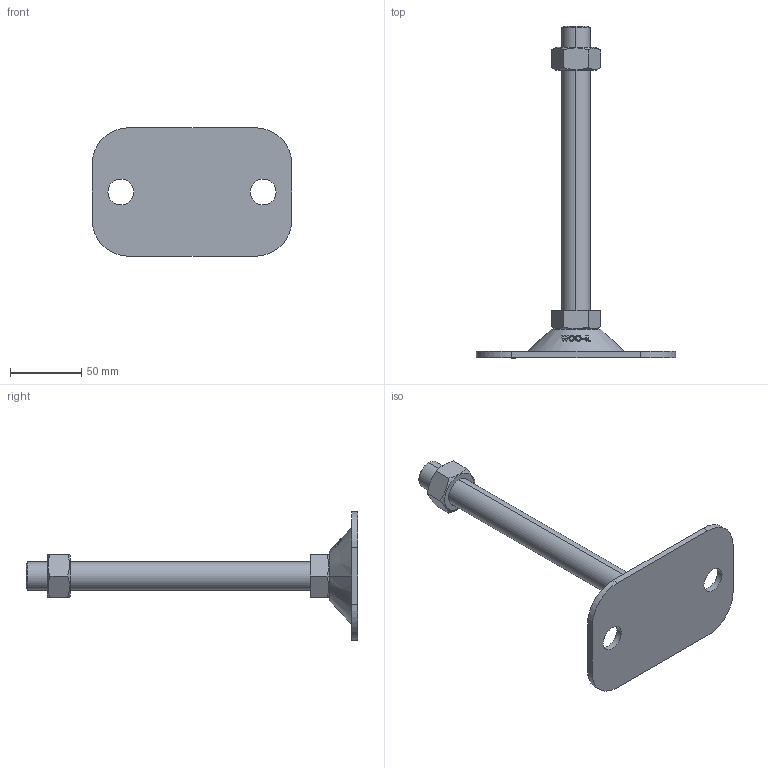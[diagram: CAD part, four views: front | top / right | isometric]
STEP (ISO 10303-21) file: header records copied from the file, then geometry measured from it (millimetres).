
FILE_DESCRIPTION (( 'STEP AP214' ), '1' );
FILE_NAME ('FABL90140-M20-200.step', '2021-03-28T23:53:37', ( '' ), ( '' ), 'SwSTEP 2.0', 'SolidWorks 2019', '' );
FILE_SCHEMA (( 'AUTOMOTIVE_DESIGN' ));
Length unit declared in the file: millimetre
Products named in the file (2): FABL90140-M20-200
Bounding box: 140 x 233 x 90 mm (x, y, z)
Volume: 165507.1 mm3; surface area: 44087.9 mm2
Topology: 2 solids, 2 shells, 130 faces, 337 edges, 222 vertices
Faces by surface type: plane 50, cylinder 40, cone 22, bspline 18
Entity records: 5615 total; most frequent: CARTESIAN_POINT 2637, ORIENTED_EDGE 674, DIRECTION 485, EDGE_CURVE 337, VERTEX_POINT 222, AXIS2_PLACEMENT_3D 178, EDGE_LOOP 147, B_SPLINE_CURVE_WITH_KNOTS 144
